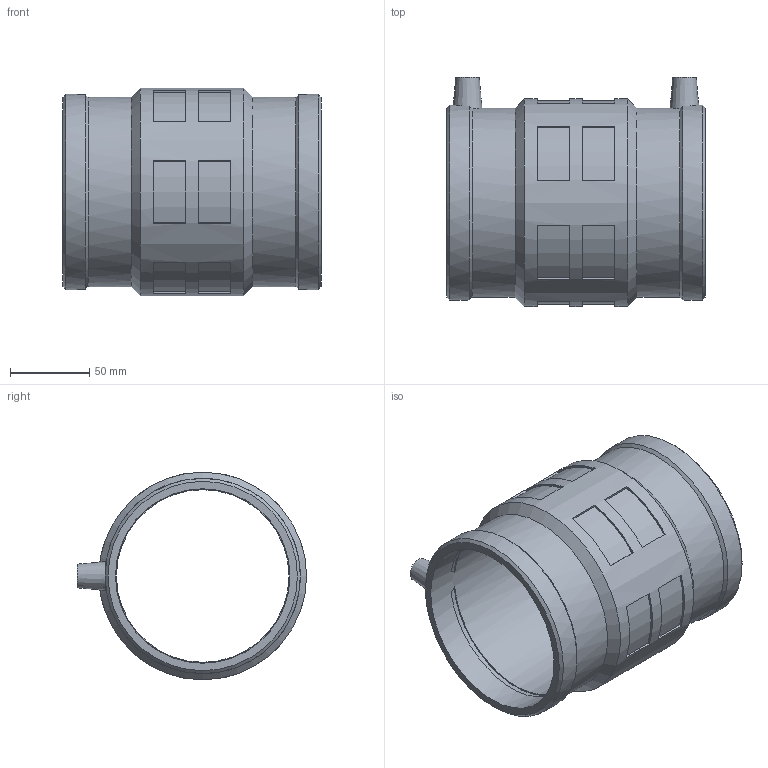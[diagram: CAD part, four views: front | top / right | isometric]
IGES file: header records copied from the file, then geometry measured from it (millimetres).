
Global section: file name: 460104110.ipt; native system: Autodesk Inventor 2015; preprocessor: unknown; author: KIM; date: 20171106.093414; units: millimetre
Bounding box: 163 x 144.5 x 131 mm (x, y, z)
Volume: 451483.7 mm3; surface area: 132399.8 mm2
Topology: 1 solids, 1 shells, 98 faces, 240 edges, 160 vertices
Faces by surface type: plane 60, cylinder 19, cone 12, revolution 7
Full cylindrical faces by diameter (mm): 4 x2, 119.446 x2, 123.14 x2, 131 x1
